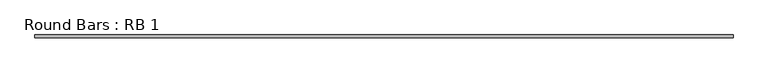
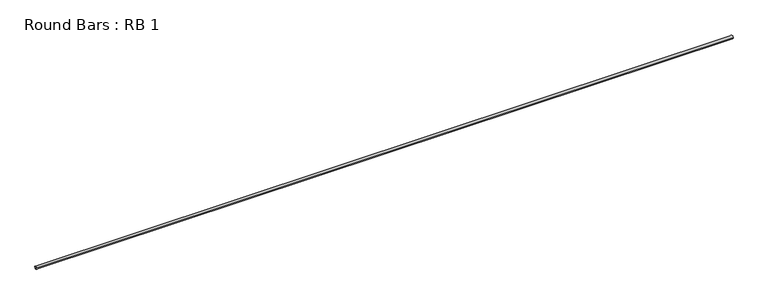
"""IFC4 building model written with IfcOpenShell, lengths in millimetres: beam geometry, Round Bars : RB 1."""

from ifc_helpers import new_model, si_unit, point, frame, origin, origin_2d, place, context, project, spatial, circle_curve, trimmed, segment, composite_curve, outline, extrude, source, transform, mapped, element, save


def round_bars_rb_1_6c3d38b6(model_context):
    return source(origin(), model_context, "Body", "SweptSolid", [
        extrude(outline(composite_curve([segment(trimmed(circle_curve(origin_2d(), 12.7), [point((12.7, 0.0))], [point((-12.7, 0.0))], False, "CARTESIAN"), True, "CONTINUOUS"), segment(trimmed(circle_curve(origin_2d(), 12.7), [point((-12.7, 0.0))], [point((12.7, 0.0))], False, "CARTESIAN"), True, "CONTINUOUS")], self_intersect=False)), frame((-3217.2484674, 0.0, 0.0), z_axis=(1.0, 0.0, 0.0), x_axis=(0.0, 1.0, 0.0)), (0.0, 0.0, 1.0), 6434.4969349),
    ])


if __name__ == "__main__":
    model = new_model("IFC4")
    model_context = context("Model", 3, world=origin())
    ifc_project = project(units=[si_unit("LENGTHUNIT", "METRE", prefix="MILLI")], contexts=[model_context])
    site = spatial("IfcSite", under=ifc_project)
    building = spatial("IfcBuilding", under=site)
    placement = place(None, origin())
    round_bars_rb_1_shape = round_bars_rb_1_6c3d38b6(model_context)
    element("IfcBeam", 1, ObjectType="Round Bars : RB 1", at=placement, inside=building, context=model_context, shape_type="MappedRepresentation", body=[
        mapped(round_bars_rb_1_shape, transform((0.0, 0.0, 0.0), x_axis=(1.0, 0.0, 0.0), y_axis=(0.0, 1.0, 0.0), z_axis=(0.0, 0.0, 1.0))),
    ])
    save(model, "model.ifc")
